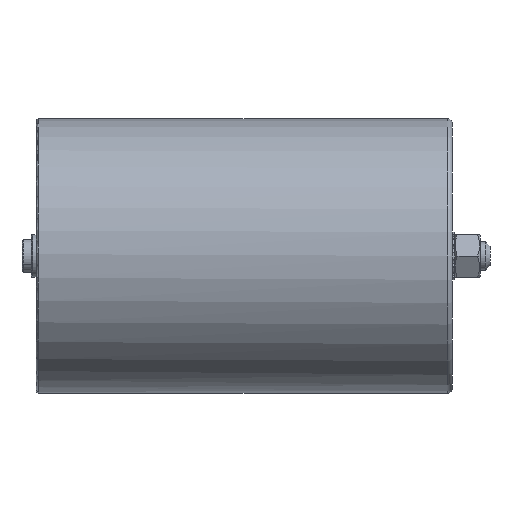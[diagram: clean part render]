
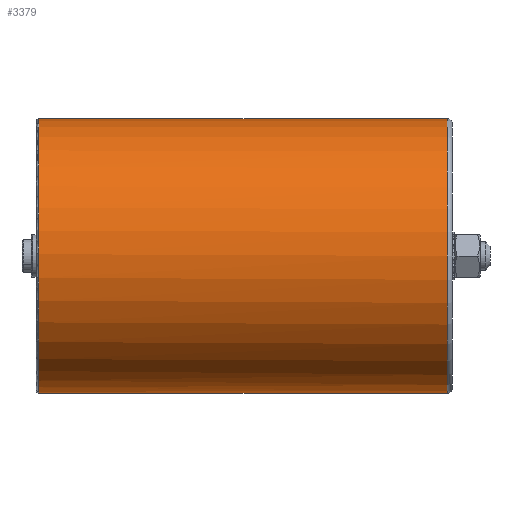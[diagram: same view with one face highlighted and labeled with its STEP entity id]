
A CAD part, left-side view. The second image highlights one B-rep face of the part: STEP entity #3379.
In plain terms, the highlighted cylindrical face has radius 58 mm (diameter 116 mm), a partial arc.
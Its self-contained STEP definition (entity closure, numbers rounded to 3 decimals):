
#75 = VECTOR ( 'NONE', #2004, 1000. ) ;
#164 = DIRECTION ( 'NONE',  ( 0., -1., 0. ) ) ;
#563 = VECTOR ( 'NONE', #2350, 1000. ) ;
#579 = EDGE_LOOP ( 'NONE', ( #4074, #3652, #3578, #3479, #3657 ) ) ;
#592 = VERTEX_POINT ( 'NONE', #2345 ) ;
#613 = CARTESIAN_POINT ( 'NONE',  ( 0., 175., 0. ) ) ;
#687 = CARTESIAN_POINT ( 'NONE',  ( 0., 0., 58. ) ) ;
#859 = EDGE_CURVE ( 'NONE', #1293, #592, #3596, .T. ) ;
#898 = FACE_OUTER_BOUND ( 'NONE', #579, .T. ) ;
#941 = DIRECTION ( 'NONE',  ( 0., -1., 0. ) ) ;
#1022 = VERTEX_POINT ( 'NONE', #2731 ) ;
#1127 = CIRCLE ( 'NONE', #1694, 58. ) ;
#1142 = CARTESIAN_POINT ( 'NONE',  ( 0., 0., 0. ) ) ;
#1227 = EDGE_CURVE ( 'NONE', #1293, #2050, #1127, .T. ) ;
#1293 = VERTEX_POINT ( 'NONE', #4285 ) ;
#1548 = DIRECTION ( 'NONE',  ( 0., 1., 0. ) ) ;
#1694 = AXIS2_PLACEMENT_3D ( 'NONE', #613, #941, #1974 ) ;
#1974 = DIRECTION ( 'NONE',  ( 0.659, 0., 0.753 ) ) ;
#2004 = DIRECTION ( 'NONE',  ( 0., -1., 0. ) ) ;
#2050 = VERTEX_POINT ( 'NONE', #3071 ) ;
#2188 = CARTESIAN_POINT ( 'NONE',  ( 0., 2., 0. ) ) ;
#2345 = CARTESIAN_POINT ( 'NONE',  ( 0., 2., 58. ) ) ;
#2350 = DIRECTION ( 'NONE',  ( 0., -1., 0. ) ) ;
#2416 = DIRECTION ( 'NONE',  ( 0., -1., 0. ) ) ;
#2418 = EDGE_CURVE ( 'NONE', #2050, #1022, #2776, .T. ) ;
#2467 = DIRECTION ( 'NONE',  ( 0., 0., -1. ) ) ;
#2697 = CARTESIAN_POINT ( 'NONE',  ( 0., 0., -58. ) ) ;
#2705 = EDGE_CURVE ( 'NONE', #1022, #3899, #3999, .T. ) ;
#2706 = AXIS2_PLACEMENT_3D ( 'NONE', #3715, #2416, #3732 ) ;
#2731 = CARTESIAN_POINT ( 'NONE',  ( 0., 175., -58. ) ) ;
#2776 = CIRCLE ( 'NONE', #2706, 58. ) ;
#2926 = CIRCLE ( 'NONE', #4093, 58. ) ;
#3071 = CARTESIAN_POINT ( 'NONE',  ( -38.196, 175., -43.647 ) ) ;
#3205 = CYLINDRICAL_SURFACE ( 'NONE', #3702, 58. ) ;
#3379 = ADVANCED_FACE ( 'NONE', ( #898 ), #3205, .T. ) ;
#3479 = ORIENTED_EDGE ( 'NONE', *, *, #2705, .T. ) ;
#3505 = DIRECTION ( 'NONE',  ( 0., 0., -1. ) ) ;
#3534 = CARTESIAN_POINT ( 'NONE',  ( 0., 2., -58. ) ) ;
#3578 = ORIENTED_EDGE ( 'NONE', *, *, #2418, .T. ) ;
#3596 = LINE ( 'NONE', #687, #75 ) ;
#3652 = ORIENTED_EDGE ( 'NONE', *, *, #1227, .T. ) ;
#3657 = ORIENTED_EDGE ( 'NONE', *, *, #3799, .T. ) ;
#3702 = AXIS2_PLACEMENT_3D ( 'NONE', #1142, #164, #2467 ) ;
#3715 = CARTESIAN_POINT ( 'NONE',  ( 0., 175., 0. ) ) ;
#3732 = DIRECTION ( 'NONE',  ( 0.659, 0., 0.753 ) ) ;
#3799 = EDGE_CURVE ( 'NONE', #3899, #592, #2926, .T. ) ;
#3899 = VERTEX_POINT ( 'NONE', #3534 ) ;
#3999 = LINE ( 'NONE', #2697, #563 ) ;
#4074 = ORIENTED_EDGE ( 'NONE', *, *, #859, .F. ) ;
#4093 = AXIS2_PLACEMENT_3D ( 'NONE', #2188, #1548, #3505 ) ;
#4285 = CARTESIAN_POINT ( 'NONE',  ( 0., 175., 58. ) ) ;
